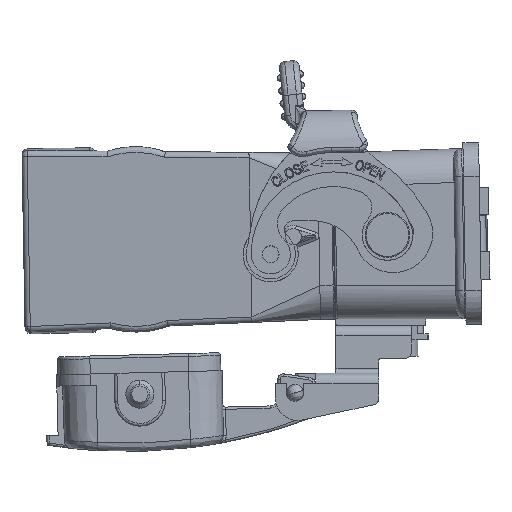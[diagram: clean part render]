
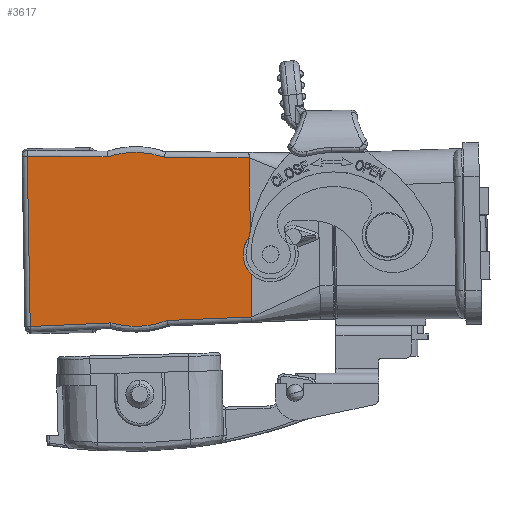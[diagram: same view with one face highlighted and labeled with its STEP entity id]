
A CAD part, left-side view. The second image highlights one B-rep face of the part: STEP entity #3617.
In plain terms, the highlighted planar face has unit normal (-0.998, 0.07, -0.001) as drawn and (-0.998, 0, 0.07) by its records, which use the part's own axes.
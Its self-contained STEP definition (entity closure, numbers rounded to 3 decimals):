
#357 = CARTESIAN_POINT ( 'NONE',  ( 3.152, 28.147, 103.754 ) ) ;
#405 = CARTESIAN_POINT ( 'NONE',  ( 2.098, 48.955, 88.675 ) ) ;
#1052 = CARTESIAN_POINT ( 'NONE',  ( 3.208, 27.852, 104.551 ) ) ;
#1227 = CARTESIAN_POINT ( 'NONE',  ( 3.383, 58.06, 107.045 ) ) ;
#3617 = ADVANCED_FACE ( 'NONE', ( #47059 ), #89030, .T. ) ;
#6493 = ORIENTED_EDGE ( 'NONE', *, *, #21060, .T. ) ;
#10090 = LINE ( 'NONE', #106629, #123902 ) ;
#10644 = CARTESIAN_POINT ( 'NONE',  ( 4.858, 57.851, 128.145 ) ) ;
#11546 = CARTESIAN_POINT ( 'NONE',  ( 3.738, 27.446, 112.127 ) ) ;
#11596 = CARTESIAN_POINT ( 'NONE',  ( 2.098, 53.679, 88.672 ) ) ;
#11714 = CARTESIAN_POINT ( 'NONE',  ( 3.62, 58.149, 110.436 ) ) ;
#13615 = CARTESIAN_POINT ( 'NONE',  ( 3.796, 27.632, 112.955 ) ) ;
#15547 = CARTESIAN_POINT ( 'NONE',  ( 2.081, 26.982, 88.43 ) ) ;
#16925 = CARTESIAN_POINT ( 'NONE',  ( 3.853, 27.885, 113.767 ) ) ;
#17498 = ORIENTED_EDGE ( 'NONE', *, *, #97450, .T. ) ;
#17971 = B_SPLINE_CURVE_WITH_KNOTS ( 'NONE', 3,
 ( #54971, #11596, #405, #54261 ),
 .UNSPECIFIED., .F., .F.,
 ( 4, 4 ),
 ( 0., 1. ),
 .UNSPECIFIED. ) ;
#18720 = CARTESIAN_POINT ( 'NONE',  ( 2.449, 56.971, 93.696 ) ) ;
#19343 = VECTOR ( 'NONE', #105124, 1000. ) ;
#21060 = EDGE_CURVE ( 'NONE', #31069, #133063, #80073, .T. ) ;
#21419 = B_SPLINE_CURVE_WITH_KNOTS ( 'NONE', 3,
 ( #94967, #137643, #127144, #53704 ),
 .UNSPECIFIED., .F., .F.,
 ( 4, 4 ),
 ( 0., 1. ),
 .UNSPECIFIED. ) ;
#22000 = CARTESIAN_POINT ( 'NONE',  ( 3.62, 27.211, 110.436 ) ) ;
#22170 = CARTESIAN_POINT ( 'NONE',  ( 3.152, 57.212, 103.754 ) ) ;
#26872 = DIRECTION ( 'NONE',  ( 0., 1., 0. ) ) ;
#27532 = CARTESIAN_POINT ( 'NONE',  ( 2.099, 28.509, 88.666 ) ) ;
#28546 = EDGE_CURVE ( 'NONE', #124403, #65099, #63116, .T. ) ;
#31069 = VERTEX_POINT ( 'NONE', #51773 ) ;
#32455 = ORIENTED_EDGE ( 'NONE', *, *, #137007, .T. ) ;
#32514 = CARTESIAN_POINT ( 'NONE',  ( 3.56, 27.163, 109.588 ) ) ;
#34590 = CARTESIAN_POINT ( 'NONE',  ( 3.383, 27.3, 107.045 ) ) ;
#34758 = CARTESIAN_POINT ( 'NONE',  ( 3.853, 57.475, 113.767 ) ) ;
#34996 = AXIS2_PLACEMENT_3D ( 'NONE', #15547, #131676, #111387 ) ;
#35807 = EDGE_LOOP ( 'NONE', ( #103064, #55847, #32455, #78835, #125043, #17498, #87052, #135617, #6493 ) ) ;
#36695 = CARTESIAN_POINT ( 'NONE',  ( 4.858, 42.68, 128.145 ) ) ;
#45262 = CARTESIAN_POINT ( 'NONE',  ( 3.56, 58.197, 109.588 ) ) ;
#47059 = FACE_OUTER_BOUND ( 'NONE', #35807, .T. ) ;
#47429 = CARTESIAN_POINT ( 'NONE',  ( 2.098, 42.68, 88.675 ) ) ;
#47886 = CARTESIAN_POINT ( 'NONE',  ( 2.098, 36.403, 88.675 ) ) ;
#48145 = CARTESIAN_POINT ( 'NONE',  ( 3.853, 57.475, 113.767 ) ) ;
#51773 = CARTESIAN_POINT ( 'NONE',  ( 4.858, 27.509, 128.145 ) ) ;
#53704 = CARTESIAN_POINT ( 'NONE',  ( 3.152, 28.147, 103.754 ) ) ;
#54261 = CARTESIAN_POINT ( 'NONE',  ( 2.098, 42.68, 88.675 ) ) ;
#54971 = CARTESIAN_POINT ( 'NONE',  ( 2.099, 56.85, 88.666 ) ) ;
#55090 = CARTESIAN_POINT ( 'NONE',  ( 3.442, 58.152, 107.89 ) ) ;
#55847 = ORIENTED_EDGE ( 'NONE', *, *, #123110, .T. ) ;
#58664 = CARTESIAN_POINT ( 'NONE',  ( 2.099, 56.85, 88.666 ) ) ;
#63116 = B_SPLINE_CURVE_WITH_KNOTS ( 'NONE', 3,
 ( #357, #1052, #65391, #34590, #77291, #32514, #22000, #11546, #13615, #119932 ),
 .UNSPECIFIED., .F., .F.,
 ( 4, 2, 2, 2, 4 ),
 ( 0., 0.25, 0.5, 0.75, 1. ),
 .UNSPECIFIED. ) ;
#63320 = EDGE_CURVE ( 'NONE', #66370, #108256, #121183, .T. ) ;
#64184 = CARTESIAN_POINT ( 'NONE',  ( 3.265, 57.737, 105.369 ) ) ;
#64774 = VECTOR ( 'NONE', #26872, 1000. ) ;
#64874 = CARTESIAN_POINT ( 'NONE',  ( 3.208, 57.508, 104.551 ) ) ;
#65099 = VERTEX_POINT ( 'NONE', #16925 ) ;
#65391 = CARTESIAN_POINT ( 'NONE',  ( 3.265, 27.623, 105.369 ) ) ;
#66370 = VERTEX_POINT ( 'NONE', #47429 ) ;
#70929 = VERTEX_POINT ( 'NONE', #114026 ) ;
#74719 = CARTESIAN_POINT ( 'NONE',  ( 2.099, 56.85, 88.666 ) ) ;
#77291 = CARTESIAN_POINT ( 'NONE',  ( 3.442, 27.207, 107.89 ) ) ;
#78835 = ORIENTED_EDGE ( 'NONE', *, *, #117325, .T. ) ;
#79387 = CARTESIAN_POINT ( 'NONE',  ( 2.098, 31.68, 88.672 ) ) ;
#80073 = LINE ( 'NONE', #36695, #64774 ) ;
#82971 = CARTESIAN_POINT ( 'NONE',  ( 2.099, 28.509, 88.666 ) ) ;
#87052 = ORIENTED_EDGE ( 'NONE', *, *, #28546, .T. ) ;
#87254 = CARTESIAN_POINT ( 'NONE',  ( 3.796, 57.728, 112.956 ) ) ;
#89030 = PLANE ( 'NONE',  #34996 ) ;
#94967 = CARTESIAN_POINT ( 'NONE',  ( 2.099, 28.509, 88.666 ) ) ;
#97450 = EDGE_CURVE ( 'NONE', #108256, #124403, #21419, .T. ) ;
#101883 = B_SPLINE_CURVE_WITH_KNOTS ( 'NONE', 3,
 ( #112507, #102012, #18720, #58664 ),
 .UNSPECIFIED., .F., .F.,
 ( 4, 4 ),
 ( 0., 1. ),
 .UNSPECIFIED. ) ;
#102012 = CARTESIAN_POINT ( 'NONE',  ( 2.801, 57.092, 98.725 ) ) ;
#103064 = ORIENTED_EDGE ( 'NONE', *, *, #111405, .T. ) ;
#105124 = DIRECTION ( 'NONE',  ( 0.07, -0.026, 0.997 ) ) ;
#106629 = CARTESIAN_POINT ( 'NONE',  ( 4.858, 57.851, 128.145 ) ) ;
#107536 = CARTESIAN_POINT ( 'NONE',  ( 3.738, 57.914, 112.127 ) ) ;
#108256 = VERTEX_POINT ( 'NONE', #82971 ) ;
#108438 = CARTESIAN_POINT ( 'NONE',  ( 3.152, 28.147, 103.754 ) ) ;
#111387 = DIRECTION ( 'NONE',  ( 0., 1., 0. ) ) ;
#111405 = EDGE_CURVE ( 'NONE', #133063, #121133, #10090, .T. ) ;
#112507 = CARTESIAN_POINT ( 'NONE',  ( 3.152, 57.212, 103.754 ) ) ;
#114026 = CARTESIAN_POINT ( 'NONE',  ( 3.152, 57.212, 103.754 ) ) ;
#114923 = CARTESIAN_POINT ( 'NONE',  ( 3.853, 27.885, 113.767 ) ) ;
#115249 = EDGE_CURVE ( 'NONE', #65099, #31069, #116998, .T. ) ;
#116998 = LINE ( 'NONE', #114923, #19343 ) ;
#117106 = DIRECTION ( 'NONE',  ( -0.07, -0.026, -0.997 ) ) ;
#117325 = EDGE_CURVE ( 'NONE', #131530, #66370, #17971, .T. ) ;
#118654 = B_SPLINE_CURVE_WITH_KNOTS ( 'NONE', 3,
 ( #34758, #87254, #107536, #11714, #45262, #55090, #1227, #64184, #64874, #22170 ),
 .UNSPECIFIED., .F., .F.,
 ( 4, 2, 2, 2, 4 ),
 ( 0., 0.25, 0.5, 0.75, 1. ),
 .UNSPECIFIED. ) ;
#119932 = CARTESIAN_POINT ( 'NONE',  ( 3.853, 27.885, 113.767 ) ) ;
#121133 = VERTEX_POINT ( 'NONE', #48145 ) ;
#121183 = B_SPLINE_CURVE_WITH_KNOTS ( 'NONE', 3,
 ( #121325, #47886, #79387, #27532 ),
 .UNSPECIFIED., .F., .F.,
 ( 4, 4 ),
 ( 0., 1. ),
 .UNSPECIFIED. ) ;
#121325 = CARTESIAN_POINT ( 'NONE',  ( 2.098, 42.68, 88.675 ) ) ;
#123110 = EDGE_CURVE ( 'NONE', #121133, #70929, #118654, .T. ) ;
#123902 = VECTOR ( 'NONE', #117106, 1000. ) ;
#124403 = VERTEX_POINT ( 'NONE', #108438 ) ;
#125043 = ORIENTED_EDGE ( 'NONE', *, *, #63320, .T. ) ;
#127144 = CARTESIAN_POINT ( 'NONE',  ( 2.801, 28.268, 98.725 ) ) ;
#131530 = VERTEX_POINT ( 'NONE', #74719 ) ;
#131676 = DIRECTION ( 'NONE',  ( -0.998, 0., 0.07 ) ) ;
#133063 = VERTEX_POINT ( 'NONE', #10644 ) ;
#135617 = ORIENTED_EDGE ( 'NONE', *, *, #115249, .T. ) ;
#137007 = EDGE_CURVE ( 'NONE', #70929, #131530, #101883, .T. ) ;
#137643 = CARTESIAN_POINT ( 'NONE',  ( 2.449, 28.389, 93.696 ) ) ;
